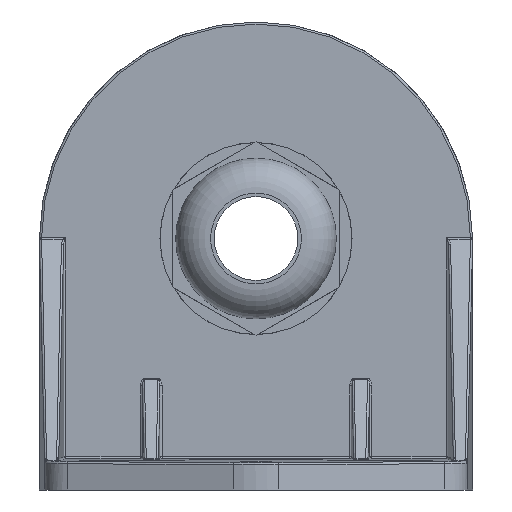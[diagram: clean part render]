
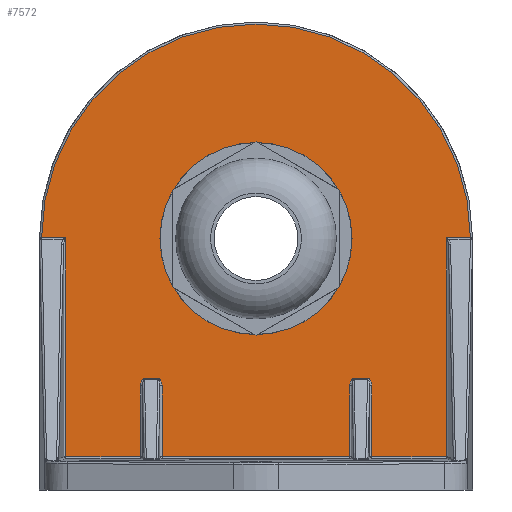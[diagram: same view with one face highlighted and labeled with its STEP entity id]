
A CAD part, front view. The second image highlights one B-rep face of the part: STEP entity #7572.
In plain terms, the highlighted planar face has unit normal (0, -1, 0).
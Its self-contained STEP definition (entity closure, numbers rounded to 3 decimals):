
#108=FACE_BOUND('',#2646,.T.);
#877=LINE('',#13040,#1307);
#878=LINE('',#13050,#1308);
#886=LINE('',#13196,#1316);
#899=LINE('',#13311,#1329);
#901=LINE('',#13388,#1331);
#906=LINE('',#13499,#1336);
#907=LINE('',#13509,#1337);
#923=LINE('',#14011,#1353);
#925=LINE('',#14019,#1355);
#927=LINE('',#14026,#1357);
#930=LINE('',#14036,#1360);
#931=LINE('',#14041,#1361);
#934=LINE('',#14052,#1364);
#1307=VECTOR('',#8951,10.);
#1308=VECTOR('',#8966,10.);
#1316=VECTOR('',#9006,10.);
#1329=VECTOR('',#9055,10.);
#1331=VECTOR('',#9085,10.);
#1336=VECTOR('',#9110,10.);
#1337=VECTOR('',#9115,10.);
#1353=VECTOR('',#9209,10.);
#1355=VECTOR('',#9221,10.);
#1357=VECTOR('',#9231,10.);
#1360=VECTOR('',#9246,10.);
#1361=VECTOR('',#9253,10.);
#1364=VECTOR('',#9270,10.);
#1720=PLANE('',#8430);
#2160=FACE_OUTER_BOUND('',#2645,.T.);
#2645=EDGE_LOOP('',(#6694,#6695,#6696,#6697,#6698,#6699,#6700,#6701,#6702,
#6703,#6704,#6705,#6706,#6707,#6708,#6709,#6710,#6711));
#2646=EDGE_LOOP('',(#6712));
#2817=CIRCLE('',#7894,30.7);
#3073=CIRCLE('',#8431,13.75);
#3165=ELLIPSE('',#7813,1.099,0.6);
#3167=ELLIPSE('',#7818,1.099,0.6);
#3178=ELLIPSE('',#7848,1.099,0.6);
#3182=ELLIPSE('',#7861,1.099,0.6);
#3425=VERTEX_POINT('',#13001);
#3438=VERTEX_POINT('',#13037);
#3439=VERTEX_POINT('',#13039);
#3440=VERTEX_POINT('',#13046);
#3441=VERTEX_POINT('',#13048);
#3444=VERTEX_POINT('',#13144);
#3451=VERTEX_POINT('',#13190);
#3453=VERTEX_POINT('',#13194);
#3470=VERTEX_POINT('',#13308);
#3471=VERTEX_POINT('',#13310);
#3472=VERTEX_POINT('',#13343);
#3476=VERTEX_POINT('',#13384);
#3477=VERTEX_POINT('',#13386);
#3484=VERTEX_POINT('',#13493);
#3487=VERTEX_POINT('',#13504);
#3504=VERTEX_POINT('',#14009);
#3506=VERTEX_POINT('',#14024);
#3508=VERTEX_POINT('',#14039);
#3771=VERTEX_POINT('',#16375);
#4113=EDGE_CURVE('',#3438,#3439,#877,.T.);
#4119=EDGE_CURVE('',#3441,#3440,#878,.T.);
#4120=EDGE_CURVE('',#3439,#3441,#3165,.T.);
#4125=EDGE_CURVE('',#3444,#3438,#3167,.T.);
#4139=EDGE_CURVE('',#3453,#3451,#886,.T.);
#4164=EDGE_CURVE('',#3470,#3471,#899,.T.);
#4166=EDGE_CURVE('',#3472,#3470,#3178,.T.);
#4177=EDGE_CURVE('',#3477,#3476,#901,.T.);
#4178=EDGE_CURVE('',#3471,#3477,#3182,.T.);
#4191=EDGE_CURVE('',#3425,#3484,#906,.T.);
#4194=EDGE_CURVE('',#3487,#3453,#907,.T.);
#4220=EDGE_CURVE('',#3484,#3487,#2817,.T.);
#4239=EDGE_CURVE('',#3504,#3425,#923,.T.);
#4243=EDGE_CURVE('',#3440,#3504,#925,.T.);
#4247=EDGE_CURVE('',#3506,#3444,#927,.T.);
#4253=EDGE_CURVE('',#3476,#3506,#930,.T.);
#4255=EDGE_CURVE('',#3508,#3472,#931,.T.);
#4261=EDGE_CURVE('',#3451,#3508,#934,.T.);
#4768=EDGE_CURVE('',#3771,#3771,#3073,.T.);
#6694=ORIENTED_EDGE('',*,*,#4261,.F.);
#6695=ORIENTED_EDGE('',*,*,#4139,.F.);
#6696=ORIENTED_EDGE('',*,*,#4194,.F.);
#6697=ORIENTED_EDGE('',*,*,#4220,.F.);
#6698=ORIENTED_EDGE('',*,*,#4191,.F.);
#6699=ORIENTED_EDGE('',*,*,#4239,.F.);
#6700=ORIENTED_EDGE('',*,*,#4243,.F.);
#6701=ORIENTED_EDGE('',*,*,#4119,.F.);
#6702=ORIENTED_EDGE('',*,*,#4120,.F.);
#6703=ORIENTED_EDGE('',*,*,#4113,.F.);
#6704=ORIENTED_EDGE('',*,*,#4125,.F.);
#6705=ORIENTED_EDGE('',*,*,#4247,.F.);
#6706=ORIENTED_EDGE('',*,*,#4253,.F.);
#6707=ORIENTED_EDGE('',*,*,#4177,.F.);
#6708=ORIENTED_EDGE('',*,*,#4178,.F.);
#6709=ORIENTED_EDGE('',*,*,#4164,.F.);
#6710=ORIENTED_EDGE('',*,*,#4166,.F.);
#6711=ORIENTED_EDGE('',*,*,#4255,.F.);
#6712=ORIENTED_EDGE('',*,*,#4768,.T.);
#7572=ADVANCED_FACE('',(#2160,#108),#1720,.T.);
#7813=AXIS2_PLACEMENT_3D('',#13081,#8967,#8968);
#7818=AXIS2_PLACEMENT_3D('',#13145,#8978,#8979);
#7848=AXIS2_PLACEMENT_3D('',#13344,#9058,#9059);
#7861=AXIS2_PLACEMENT_3D('',#13419,#9086,#9087);
#7894=AXIS2_PLACEMENT_3D('',#13618,#9170,#9171);
#8430=AXIS2_PLACEMENT_3D('',#16374,#10452,#10453);
#8431=AXIS2_PLACEMENT_3D('',#16376,#10454,#10455);
#8951=DIRECTION('',(-1.,0.,0.));
#8966=DIRECTION('',(0.,0.,-1.));
#8967=DIRECTION('center_axis',(0.,-1.,0.));
#8968=DIRECTION('ref_axis',(-0.023,0.,1.));
#8978=DIRECTION('center_axis',(0.,-1.,0.));
#8979=DIRECTION('ref_axis',(0.023,0.,1.));
#9006=DIRECTION('',(0.,0.,-1.));
#9055=DIRECTION('',(-1.,0.,0.));
#9058=DIRECTION('center_axis',(0.,-1.,0.));
#9059=DIRECTION('ref_axis',(0.023,0.,1.));
#9085=DIRECTION('',(0.,0.,-1.));
#9086=DIRECTION('center_axis',(0.,-1.,0.));
#9087=DIRECTION('ref_axis',(-0.023,0.,1.));
#9110=DIRECTION('',(-1.,0.,0.));
#9115=DIRECTION('',(-1.,0.,0.));
#9170=DIRECTION('center_axis',(0.,1.,0.));
#9171=DIRECTION('ref_axis',(0.,0.,1.));
#9209=DIRECTION('',(0.,0.,1.));
#9221=DIRECTION('',(-1.,0.,0.));
#9231=DIRECTION('',(0.,0.,1.));
#9246=DIRECTION('',(-1.,0.,0.));
#9253=DIRECTION('',(0.,0.,1.));
#9270=DIRECTION('',(-1.,0.,0.));
#10452=DIRECTION('center_axis',(0.,-1.,0.));
#10453=DIRECTION('ref_axis',(0.,0.,-1.));
#10454=DIRECTION('center_axis',(0.,1.,0.));
#10455=DIRECTION('ref_axis',(-1.,0.,0.));
#13001=CARTESIAN_POINT('',(-27.249,0.,0.089));
#13037=CARTESIAN_POINT('',(-14.031,0.,-20.034));
#13039=CARTESIAN_POINT('',(-15.969,0.,-20.034));
#13040=CARTESIAN_POINT('',(-2.392,0.,-20.034));
#13046=CARTESIAN_POINT('',(-16.552,0.,-31.205));
#13048=CARTESIAN_POINT('',(-16.552,0.,-21.101));
#13050=CARTESIAN_POINT('',(-16.552,0.,-18.));
#13081=CARTESIAN_POINT('Origin',(-15.951,0.,-21.133));
#13144=CARTESIAN_POINT('',(-13.448,0.,-21.101));
#13145=CARTESIAN_POINT('Origin',(-14.049,0.,-21.133));
#13190=CARTESIAN_POINT('',(27.249,0.,-31.205));
#13194=CARTESIAN_POINT('',(27.249,0.,0.089));
#13196=CARTESIAN_POINT('',(27.249,0.,-18.));
#13308=CARTESIAN_POINT('',(15.969,0.,-20.034));
#13310=CARTESIAN_POINT('',(14.031,0.,-20.034));
#13311=CARTESIAN_POINT('',(12.608,0.,-20.034));
#13343=CARTESIAN_POINT('',(16.552,0.,-21.101));
#13344=CARTESIAN_POINT('Origin',(15.951,0.,-21.133));
#13384=CARTESIAN_POINT('',(13.448,0.,-31.205));
#13386=CARTESIAN_POINT('',(13.448,0.,-21.101));
#13388=CARTESIAN_POINT('',(13.448,0.,-18.));
#13419=CARTESIAN_POINT('Origin',(14.049,0.,-21.133));
#13493=CARTESIAN_POINT('',(-30.7,0.,0.089));
#13499=CARTESIAN_POINT('',(-9.525,0.,0.089));
#13504=CARTESIAN_POINT('',(30.7,0.,0.089));
#13509=CARTESIAN_POINT('',(19.74,0.,0.089));
#13618=CARTESIAN_POINT('Origin',(0.,0.,0.));
#14009=CARTESIAN_POINT('',(-27.249,0.,-31.205));
#14011=CARTESIAN_POINT('',(-27.249,0.,-18.));
#14019=CARTESIAN_POINT('',(5.108,0.,-31.205));
#14024=CARTESIAN_POINT('',(-13.448,0.,-31.205));
#14026=CARTESIAN_POINT('',(-13.448,0.,-18.));
#14036=CARTESIAN_POINT('',(5.108,0.,-31.205));
#14039=CARTESIAN_POINT('',(16.552,0.,-31.205));
#14041=CARTESIAN_POINT('',(16.552,0.,-18.));
#14052=CARTESIAN_POINT('',(5.108,0.,-31.205));
#16374=CARTESIAN_POINT('Origin',(10.215,0.,0.));
#16375=CARTESIAN_POINT('',(13.75,0.,0.));
#16376=CARTESIAN_POINT('Origin',(0.,0.,0.));
